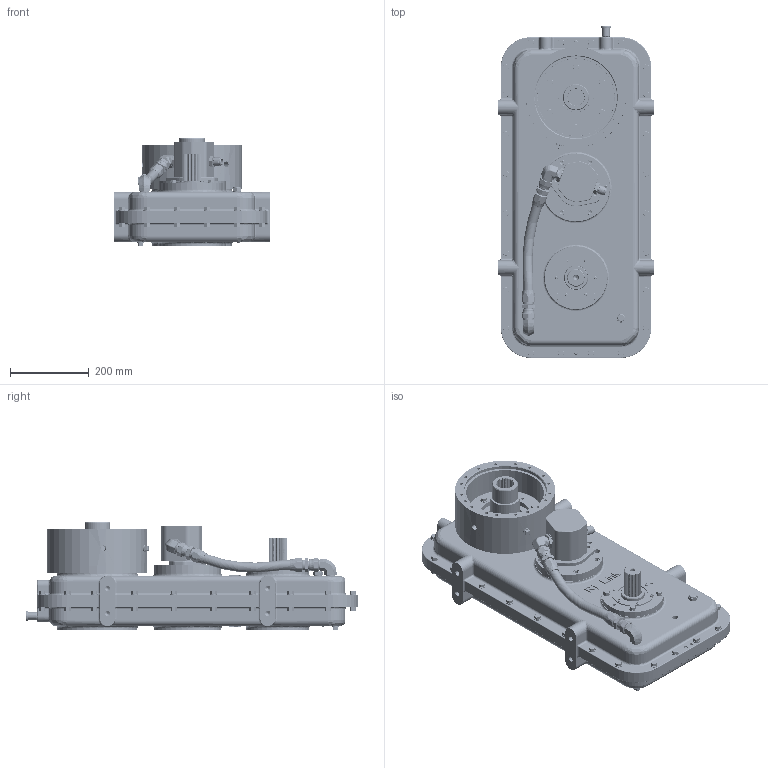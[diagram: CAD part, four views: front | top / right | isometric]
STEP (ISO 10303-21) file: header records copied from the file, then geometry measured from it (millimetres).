
FILE_DESCRIPTION (( 'STEP AP214' ), '1' );
FILE_NAME ('D218E100004.STEP', '2017-10-10T19:25:32', ( 'MikeMihajlovic' ), ( 'Microsoft' ), 'SwSTEP 2.0', 'SolidWorks 2017', '' );
FILE_SCHEMA (( 'AUTOMOTIVE_DESIGN' ));
Length unit declared in the file: inch
Products named in the file (53): HA-12-12-12-14_D218E100004; SHK22007_8; HHCSZ_38-16X1_50_7; 20621-12-12; SHK22005_8; OR2_114X_070_2; .75IDX14_003_OUTPUT; D218029_2; D218013_2; 12 C5OX-S; D218024_2; D218010_2; ME12 CTX-S; SHCS_25-20X_50_17; D218019_2; STC10-F5OX-S_10 HP5ON-S; D218009_7; D218008_3; LPGHP2A-S-13-S1; D218001J_ASM; D218022_2; PPSKG_12-27_3; HHCSZ_38-16X1_75_10; SHCS_38-16X1_00_19; SHCS-10-24X1_00_2; LWZ_38_44; D218015_2; D218016_2; HNZ_38-16_17; OR3_239X_070_2; PPSQM_38-18_5; D218001E_AF0_2; D218004_2; DS90081A106_48; DWL_38X1_00_21; D218025_2; NP266409-1_41; D218001H_AF0; SHK21720_3; SG_50NPT-02_4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
Assembly tree (192 placements, depth 3):
  D218E100004
    D218001J_ASM
      D218001H_AF0
      DWL_38X1_00_21  x2
      D218001E_AF0_2
      HNZ_38-16_17  x24
      LWZ_38_44  x24
      HHCSZ_38-16X1_75_10  x24
    D218009_7  x5
    SHCS_25-20X_50_17  x10
    D218024_2
    D218029_2
    SHK22005_8  x3
    SHK22007_8  x3
    SHK22020_8
    SHK21905_2  x3
    SHK21907_2  x3
    SHK21920_2
    SHK21705_3  x3
    SHK21707_3  x3
    SHK21720_3
    D218025_2
    D218004_2
    OR3_239X_070_2
    D218015_2
    SHCS_38-16X1_00_19  x12
    D218022_2
    D218008_3
    D218019_2
    D218010_2
    D218013_2
    OR2_114X_070_2
    LWZ_38_44  x10
    HHCSZ_38-16X1_50_7  x10
    OS2_375X3_500-2_6
    D218030_2
    SHCS8-32X_38_2  x6
    AV313650_21
    PPPI_38NPT_10
    PPPI_25NPT_7
    SG_50NPT-02_4
    NP266409-1_41
    DS90081A106_48  x2
    PPSQM_38-18_5  x2
    D218016_2
    SHCS-10-24X1_00_2  x3
    PPSKG_12-27_3  x6
    LPGHP2A-S-13-S1
    STC10-F5OX-S_10 HP5ON-S
    ME12 CTX-S
    12 C5OX-S
    HA-12-12-12-14_D218E100004
      .75IDX14_003_OUTPUT
      20621-12-12  x2
Bounding box: 393.7 x 841.25 x 273.8 mm (x, y, z)
Volume: 1734046.3 mm3; surface area: 3188175.6 mm2
Topology: 121 solids, 360 shells, 7631 faces, 19252 edges, 12218 vertices
Faces by surface type: cylinder 3283, plane 2776, bspline 819, cone 712, torus 41
Entity records: 206534 total; most frequent: CARTESIAN_POINT 88885, DIRECTION 23936, ORIENTED_EDGE 23784, EDGE_CURVE 12113, AXIS2_PLACEMENT_3D 9044, VERTEX_POINT 7869, LINE 5848, VECTOR 5848
